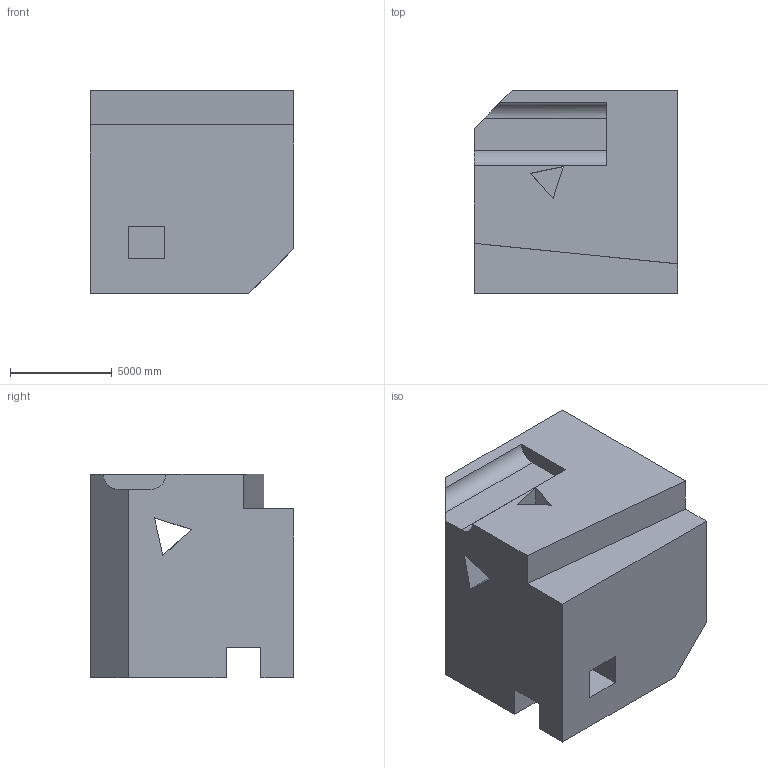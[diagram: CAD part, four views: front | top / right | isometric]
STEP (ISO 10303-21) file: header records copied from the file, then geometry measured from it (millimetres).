
FILE_DESCRIPTION (( 'STEP AP203' ), '1' );
FILE_NAME ('982.STEP', '2022-07-29T14:56:06', ( 'user' ), ( '' ), 'SwSTEP 2.0', 'SolidWorks 2021', '' );
FILE_SCHEMA (( 'CONFIG_CONTROL_DESIGN' ));
Length unit declared in the file: centimetre
Products named in the file (1): 982
Bounding box: 10000 x 10000 x 10000 mm (x, y, z)
Volume: 812408824402.6 mm3; surface area: 766786938.9 mm2
Topology: 1 solids, 1 shells, 47 faces, 138 edges, 92 vertices
Faces by surface type: plane 43, cylinder 4
Entity records: 1627 total; most frequent: CARTESIAN_POINT 284, ORIENTED_EDGE 276, DIRECTION 238, EDGE_CURVE 138, VECTOR 130, LINE 130, VERTEX_POINT 92, AXIS2_PLACEMENT_3D 54
